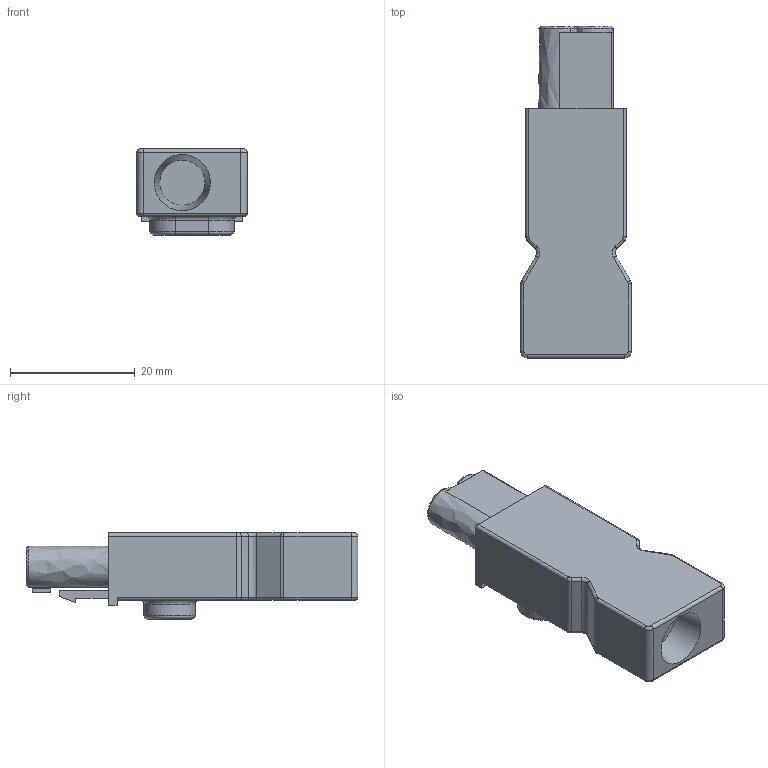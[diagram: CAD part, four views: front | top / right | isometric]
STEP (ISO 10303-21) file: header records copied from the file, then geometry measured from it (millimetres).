
FILE_DESCRIPTION((''),'2;1');
FILE_NAME('d:\users\racky\work\91_921_3053_0_E.stp', '2006-03-21T10:56:16',('User'),('SDRC'),'I-DEAS Master Series 9','UNIX', 'Yes');
FILE_SCHEMA(('AUTOMOTIVE_DESIGN { 1 0 10303 214 1 1 1 1 }'));
Length unit declared in the file: millimetre
Products named in the file (1): 91_921_3053_0_E
Bounding box: 17.7 x 53.2 x 13.8 mm (x, y, z)
Volume: 7894.2 mm3; surface area: 3525.9 mm2
Topology: 1 solids, 1 shells, 134 faces, 320 edges, 194 vertices
Faces by surface type: bspline 134
Entity records: 4039 total; most frequent: CARTESIAN_POINT 2182, ORIENTED_EDGE 640, EDGE_CURVE 320, VERTEX_POINT 194, EDGE_LOOP 140, B_SPLINE_CURVE_WITH_KNOTS 136, FACE_OUTER_BOUND 134, ADVANCED_FACE 134
